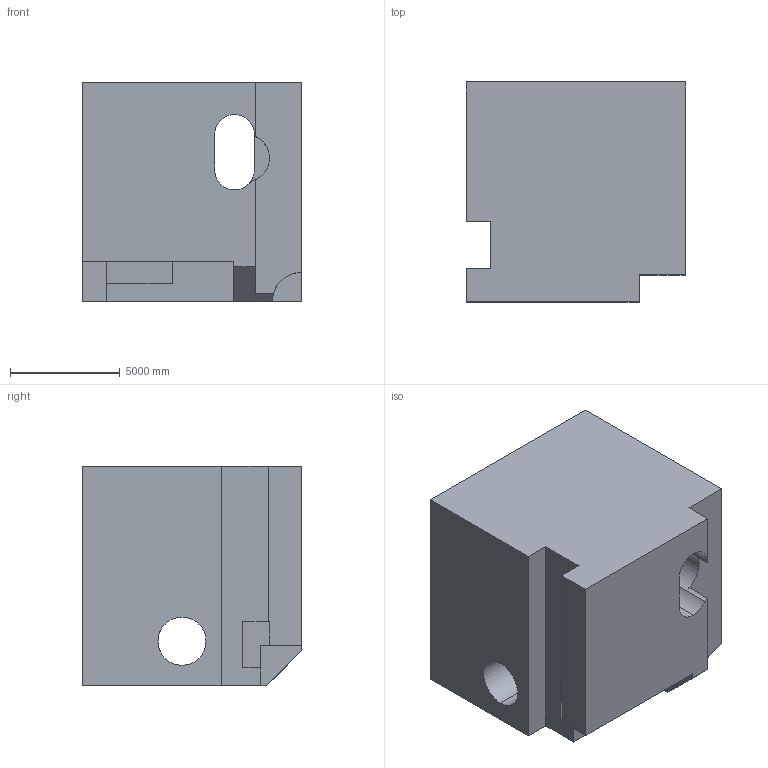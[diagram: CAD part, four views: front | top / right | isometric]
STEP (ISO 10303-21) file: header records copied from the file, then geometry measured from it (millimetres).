
FILE_DESCRIPTION (( 'STEP AP203' ), '1' );
FILE_NAME ('1925.STEP', '2022-08-23T09:32:54', ( 'user' ), ( '' ), 'SwSTEP 2.0', 'SolidWorks 2021', '' );
FILE_SCHEMA (( 'CONFIG_CONTROL_DESIGN' ));
Length unit declared in the file: centimetre
Products named in the file (1): 1925
Bounding box: 10000 x 10000 x 10000 mm (x, y, z)
Volume: 807282539939.5 mm3; surface area: 764656168.3 mm2
Topology: 1 solids, 1 shells, 38 faces, 114 edges, 76 vertices
Faces by surface type: plane 29, cylinder 9
Entity records: 1480 total; most frequent: CARTESIAN_POINT 348, ORIENTED_EDGE 228, DIRECTION 210, EDGE_CURVE 114, LINE 90, VECTOR 90, VERTEX_POINT 76, AXIS2_PLACEMENT_3D 60
